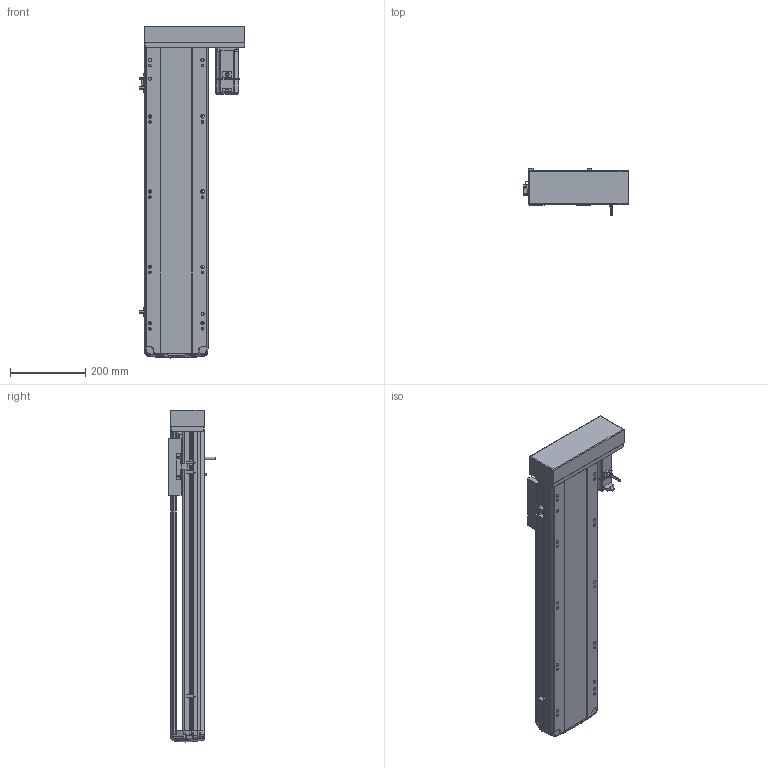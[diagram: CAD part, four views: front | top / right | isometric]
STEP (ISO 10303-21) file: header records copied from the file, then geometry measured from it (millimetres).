
FILE_DESCRIPTION (( 'STEP AP214' ), '1' );
FILE_NAME ('RTH17-XX-600-L-M40-C4.STEP', '2025-10-24T08:46:22', ( '' ), ( '' ), 'SwSTEP 2.0', 'SolidWorks 2018', '' );
FILE_SCHEMA (( 'AUTOMOTIVE_DESIGN' ));
Length unit declared in the file: millimetre
Products named in the file (10): N_RTH17-GY-001P^RTH17-XX-XX-L-M40-C4（方程式）; RTH17-XX-600-L-M40-C4; N_RTH17-L-018盖子^RTH17-XX-XX-L-M40-C4（方程式）; N_RTH-BL-012 感应片(外置)^RTH17-XX-XX-L-M40-C4（方程式）; N_RTH17-M-007上盖^RTH17-XX-XX-L-M40-C4（方程式）; N_RTH17-L-008-P40电机安装板左转折^RTH17-XX-XX-L-M40-C4（方程式）; N_RTH17-E-004丝杆螺母连接座^RTH17-XX-XX-L-M40-C4（方程式）; N_RTH17-M-011底座^RTH17-XX-XX-L-M40-C4（方程式）; N_OMRON EE-SX672 換覜ん^RTH17-XX-XX-L-M40-C4ㄗ源最宒ㄘ; N_M40^RTH17-XX-XX-L-M40-C4（方程式）
Assembly tree (11 placements, depth 2):
  RTH17-XX-600-L-M40-C4
    N_RTH17-M-011底座^RTH17-XX-XX-L-M40-C4（方程式）
    N_RTH17-M-007上盖^RTH17-XX-XX-L-M40-C4（方程式）
    N_M40^RTH17-XX-XX-L-M40-C4（方程式）
    N_OMRON EE-SX672 換覜ん^RTH17-XX-XX-L-M40-C4ㄗ源最宒ㄘ  x3
    N_RTH-BL-012 感应片(外置)^RTH17-XX-XX-L-M40-C4（方程式）
    N_RTH17-L-008-P40电机安装板左转折^RTH17-XX-XX-L-M40-C4（方程式）
    N_RTH17-L-018盖子^RTH17-XX-XX-L-M40-C4（方程式）
    N_RTH17-E-004丝杆螺母连接座^RTH17-XX-XX-L-M40-C4（方程式）
    N_RTH17-GY-001P^RTH17-XX-XX-L-M40-C4（方程式）
Bounding box: 281 x 127 x 882.99 mm (x, y, z)
Volume: 8092482.5 mm3; surface area: 1043470.2 mm2
Topology: 13 solids, 15 shells, 1647 faces, 4575 edges, 2982 vertices
Faces by surface type: plane 833, cylinder 447, bspline 330, cone 28, torus 9
Entity records: 47838 total; most frequent: CARTESIAN_POINT 19381, ORIENTED_EDGE 6174, DIRECTION 5089, EDGE_CURVE 3091, VERTEX_POINT 2018, LINE 1747, VECTOR 1747, AXIS2_PLACEMENT_3D 1671
